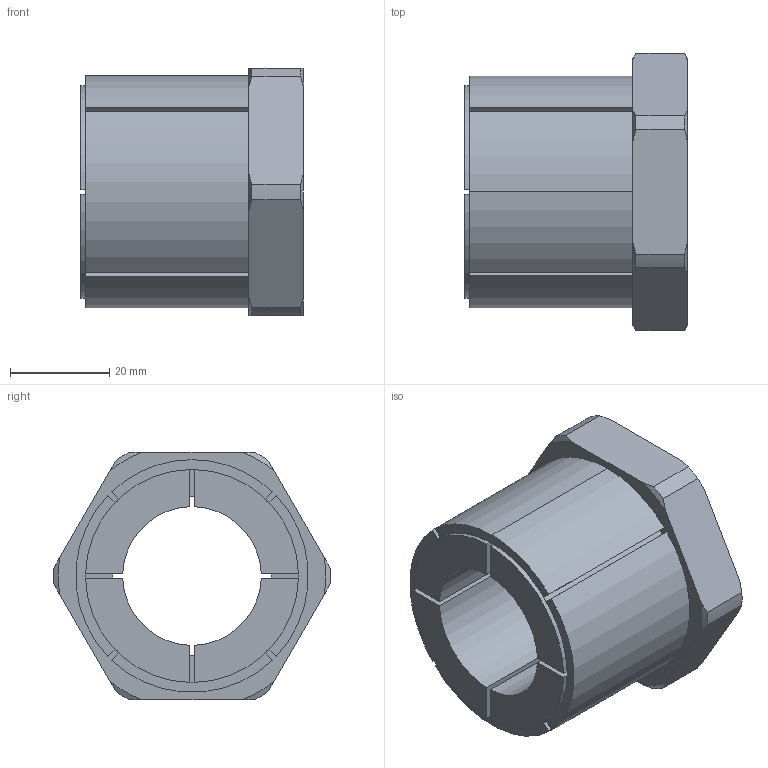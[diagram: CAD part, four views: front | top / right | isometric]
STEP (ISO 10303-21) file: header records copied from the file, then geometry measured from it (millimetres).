
FILE_DESCRIPTION (( 'STEP AP203' ), '1' );
FILE_NAME ('KBS 58 - 28 x 47.STEP', '2015-07-05T19:59:05', ( '' ), ( '' ), 'SwSTEP 2.0', 'SolidWorks 2010', '' );
FILE_SCHEMA (( 'CONFIG_CONTROL_DESIGN' ));
Length unit declared in the file: millimetre
Products named in the file (1): KBS 58 - 28 x 47
Bounding box: 45 x 55.99 x 50 mm (x, y, z)
Volume: 52931.9 mm3; surface area: 17056.9 mm2
Topology: 1 solids, 1 shells, 79 faces, 220 edges, 144 vertices
Faces by surface type: plane 37, cylinder 26, cone 16
Entity records: 2687 total; most frequent: CARTESIAN_POINT 564, ORIENTED_EDGE 440, DIRECTION 428, EDGE_CURVE 220, AXIS2_PLACEMENT_3D 160, VERTEX_POINT 144, LINE 108, VECTOR 108
